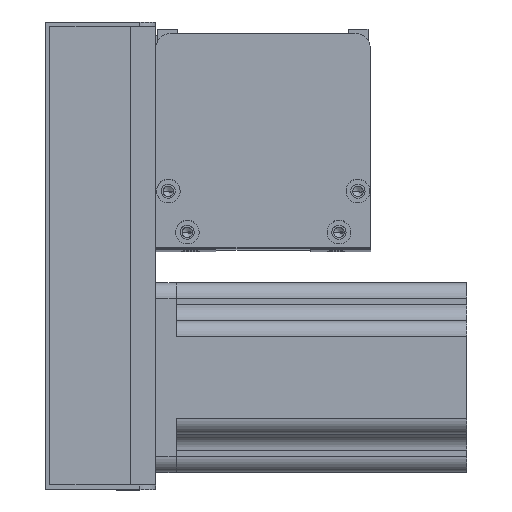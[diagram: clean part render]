
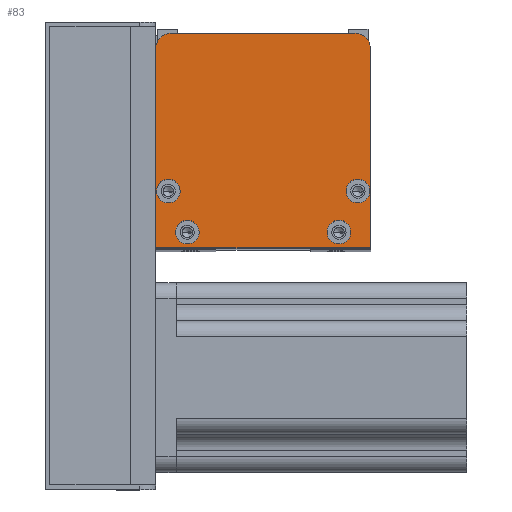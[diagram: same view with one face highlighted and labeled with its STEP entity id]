
A CAD part, top view. The second image highlights one B-rep face of the part: STEP entity #83.
In plain terms, the highlighted planar face has unit normal (0, 0, 1) as drawn and (0, 0, -1) by its records, which use the part's own axes.
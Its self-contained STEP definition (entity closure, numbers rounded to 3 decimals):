
#9 = VECTOR ( 'NONE', #20784, 1000. ) ;
#83 = ADVANCED_FACE ( 'NONE', ( #20166, #17305, #23071, #17607, #11878 ), #24080, .F. ) ;
#113 = VERTEX_POINT ( 'NONE', #14039 ) ;
#290 = VERTEX_POINT ( 'NONE', #10620 ) ;
#354 = VERTEX_POINT ( 'NONE', #10968 ) ;
#610 = CARTESIAN_POINT ( 'NONE',  ( 63., 68., 0. ) ) ;
#972 = CARTESIAN_POINT ( 'NONE',  ( 58., 5., 0. ) ) ;
#1222 = VECTOR ( 'NONE', #11255, 1000. ) ;
#1463 = VERTEX_POINT ( 'NONE', #25843 ) ;
#1499 = DIRECTION ( 'NONE',  ( 0., 0., 1. ) ) ;
#1759 = EDGE_CURVE ( 'NONE', #8579, #24037, #8531, .T. ) ;
#1870 = VERTEX_POINT ( 'NONE', #6524 ) ;
#2198 = DIRECTION ( 'NONE',  ( 0., 0., -1. ) ) ;
#2578 = AXIS2_PLACEMENT_3D ( 'NONE', #2987, #17027, #4868 ) ;
#2987 = CARTESIAN_POINT ( 'NONE',  ( 10., 5., 0. ) ) ;
#3238 = EDGE_CURVE ( 'NONE', #1463, #11484, #15216, .T. ) ;
#3271 = DIRECTION ( 'NONE',  ( -1., 0., 0. ) ) ;
#3310 = ORIENTED_EDGE ( 'NONE', *, *, #8917, .F. ) ;
#3328 = CIRCLE ( 'NONE', #11907, 3.75 ) ;
#4022 = DIRECTION ( 'NONE',  ( 0., 0., -1. ) ) ;
#4379 = CARTESIAN_POINT ( 'NONE',  ( 5., 63., 0. ) ) ;
#4486 = LINE ( 'NONE', #5091, #1222 ) ;
#4838 = EDGE_CURVE ( 'NONE', #24037, #8579, #22292, .T. ) ;
#4868 = DIRECTION ( 'NONE',  ( -1., 0., 0. ) ) ;
#4894 = DIRECTION ( 'NONE',  ( -1., 0., 0. ) ) ;
#4999 = CARTESIAN_POINT ( 'NONE',  ( 63., 63., 0. ) ) ;
#5091 = CARTESIAN_POINT ( 'NONE',  ( 68., 0., 0. ) ) ;
#5224 = CIRCLE ( 'NONE', #22264, 3.75 ) ;
#5585 = CARTESIAN_POINT ( 'NONE',  ( 61.75, 5., 0. ) ) ;
#5657 = AXIS2_PLACEMENT_3D ( 'NONE', #4379, #12598, #14490 ) ;
#5755 = VERTEX_POINT ( 'NONE', #5902 ) ;
#5902 = CARTESIAN_POINT ( 'NONE',  ( 6.25, 5., 0. ) ) ;
#5914 = EDGE_CURVE ( 'NONE', #16464, #21034, #23194, .T. ) ;
#5964 = AXIS2_PLACEMENT_3D ( 'NONE', #12381, #6515, #20865 ) ;
#5997 = VECTOR ( 'NONE', #20917, 1000. ) ;
#6315 = AXIS2_PLACEMENT_3D ( 'NONE', #11791, #1499, #23718 ) ;
#6515 = DIRECTION ( 'NONE',  ( 0., 0., -1. ) ) ;
#6524 = CARTESIAN_POINT ( 'NONE',  ( 0., 63., 0. ) ) ;
#6995 = DIRECTION ( 'NONE',  ( 0., 0., -1. ) ) ;
#7094 = DIRECTION ( 'NONE',  ( 1., 0., 0. ) ) ;
#7128 = ORIENTED_EDGE ( 'NONE', *, *, #11687, .F. ) ;
#7672 = AXIS2_PLACEMENT_3D ( 'NONE', #4999, #15280, #7094 ) ;
#7731 = EDGE_LOOP ( 'NONE', ( #26288, #3310 ) ) ;
#7888 = CARTESIAN_POINT ( 'NONE',  ( 0.25, 18., 0. ) ) ;
#8006 = ORIENTED_EDGE ( 'NONE', *, *, #14406, .F. ) ;
#8065 = CARTESIAN_POINT ( 'NONE',  ( 58., 5., 0. ) ) ;
#8080 = CARTESIAN_POINT ( 'NONE',  ( 7.75, 18., 0. ) ) ;
#8531 = CIRCLE ( 'NONE', #13285, 3.75 ) ;
#8579 = VERTEX_POINT ( 'NONE', #5585 ) ;
#8909 = EDGE_CURVE ( 'NONE', #16033, #354, #17562, .T. ) ;
#8917 = EDGE_CURVE ( 'NONE', #13594, #26296, #12781, .T. ) ;
#9876 = ORIENTED_EDGE ( 'NONE', *, *, #15460, .F. ) ;
#9889 = CIRCLE ( 'NONE', #5964, 3.75 ) ;
#10318 = CARTESIAN_POINT ( 'NONE',  ( 68., 0., 0. ) ) ;
#10620 = CARTESIAN_POINT ( 'NONE',  ( 13.75, 5., 0. ) ) ;
#10968 = CARTESIAN_POINT ( 'NONE',  ( 5., 68., 0. ) ) ;
#10970 = CARTESIAN_POINT ( 'NONE',  ( 10., 5., 0. ) ) ;
#11009 = ORIENTED_EDGE ( 'NONE', *, *, #8909, .F. ) ;
#11255 = DIRECTION ( 'NONE',  ( 1., 0., 0. ) ) ;
#11407 = EDGE_LOOP ( 'NONE', ( #15994, #26570 ) ) ;
#11484 = VERTEX_POINT ( 'NONE', #24961 ) ;
#11687 = EDGE_CURVE ( 'NONE', #5755, #290, #5224, .T. ) ;
#11791 = CARTESIAN_POINT ( 'NONE',  ( 0., 0., 0. ) ) ;
#11878 = FACE_OUTER_BOUND ( 'NONE', #15914, .T. ) ;
#11907 = AXIS2_PLACEMENT_3D ( 'NONE', #26532, #4022, #24547 ) ;
#12381 = CARTESIAN_POINT ( 'NONE',  ( 64., 18., 0. ) ) ;
#12511 = VECTOR ( 'NONE', #13541, 1000. ) ;
#12598 = DIRECTION ( 'NONE',  ( 0., 0., -1. ) ) ;
#12781 = CIRCLE ( 'NONE', #22992, 3.75 ) ;
#13285 = AXIS2_PLACEMENT_3D ( 'NONE', #8065, #2198, #16667 ) ;
#13347 = EDGE_CURVE ( 'NONE', #16033, #21034, #18320, .T. ) ;
#13361 = CARTESIAN_POINT ( 'NONE',  ( 0., 0., 0. ) ) ;
#13541 = DIRECTION ( 'NONE',  ( 0., -1., 0. ) ) ;
#13594 = VERTEX_POINT ( 'NONE', #8080 ) ;
#13924 = CARTESIAN_POINT ( 'NONE',  ( 64., 18., 0. ) ) ;
#14039 = CARTESIAN_POINT ( 'NONE',  ( 0., 0., 0. ) ) ;
#14381 = ORIENTED_EDGE ( 'NONE', *, *, #24066, .F. ) ;
#14406 = EDGE_CURVE ( 'NONE', #113, #16464, #4486, .T. ) ;
#14490 = DIRECTION ( 'NONE',  ( 1., 0., 0. ) ) ;
#15216 = CIRCLE ( 'NONE', #24467, 3.75 ) ;
#15280 = DIRECTION ( 'NONE',  ( 0., 0., -1. ) ) ;
#15460 = EDGE_CURVE ( 'NONE', #1870, #113, #17957, .T. ) ;
#15528 = ORIENTED_EDGE ( 'NONE', *, *, #13347, .T. ) ;
#15866 = DIRECTION ( 'NONE',  ( 0., 0., -1. ) ) ;
#15914 = EDGE_LOOP ( 'NONE', ( #9876, #25643, #11009, #15528, #22175, #8006 ) ) ;
#15994 = ORIENTED_EDGE ( 'NONE', *, *, #4838, .F. ) ;
#16003 = CIRCLE ( 'NONE', #5657, 5. ) ;
#16033 = VERTEX_POINT ( 'NONE', #610 ) ;
#16464 = VERTEX_POINT ( 'NONE', #18388 ) ;
#16667 = DIRECTION ( 'NONE',  ( -1., 0., 0. ) ) ;
#17027 = DIRECTION ( 'NONE',  ( 0., 0., -1. ) ) ;
#17305 = FACE_BOUND ( 'NONE', #7731, .T. ) ;
#17562 = LINE ( 'NONE', #18857, #5997 ) ;
#17607 = FACE_BOUND ( 'NONE', #11407, .T. ) ;
#17957 = LINE ( 'NONE', #13361, #12511 ) ;
#18080 = EDGE_CURVE ( 'NONE', #26296, #13594, #3328, .T. ) ;
#18320 = CIRCLE ( 'NONE', #7672, 5. ) ;
#18388 = CARTESIAN_POINT ( 'NONE',  ( 68., 0., 0. ) ) ;
#18853 = ORIENTED_EDGE ( 'NONE', *, *, #24816, .F. ) ;
#18857 = CARTESIAN_POINT ( 'NONE',  ( 68., 68., 0. ) ) ;
#19400 = DIRECTION ( 'NONE',  ( -1., 0., 0. ) ) ;
#20166 = FACE_BOUND ( 'NONE', #26427, .T. ) ;
#20784 = DIRECTION ( 'NONE',  ( 0., 1., 0. ) ) ;
#20865 = DIRECTION ( 'NONE',  ( -1., 0., 0. ) ) ;
#20917 = DIRECTION ( 'NONE',  ( -1., 0., 0. ) ) ;
#21034 = VERTEX_POINT ( 'NONE', #23992 ) ;
#21963 = CIRCLE ( 'NONE', #2578, 3.75 ) ;
#22042 = EDGE_CURVE ( 'NONE', #1870, #354, #16003, .T. ) ;
#22175 = ORIENTED_EDGE ( 'NONE', *, *, #5914, .F. ) ;
#22241 = ORIENTED_EDGE ( 'NONE', *, *, #3238, .F. ) ;
#22264 = AXIS2_PLACEMENT_3D ( 'NONE', #10970, #25305, #4894 ) ;
#22292 = CIRCLE ( 'NONE', #24505, 3.75 ) ;
#22992 = AXIS2_PLACEMENT_3D ( 'NONE', #25672, #6995, #25317 ) ;
#23071 = FACE_BOUND ( 'NONE', #24438, .T. ) ;
#23194 = LINE ( 'NONE', #10318, #9 ) ;
#23484 = CARTESIAN_POINT ( 'NONE',  ( 54.25, 5., 0. ) ) ;
#23625 = DIRECTION ( 'NONE',  ( 0., 0., -1. ) ) ;
#23718 = DIRECTION ( 'NONE',  ( 1., 0., 0. ) ) ;
#23992 = CARTESIAN_POINT ( 'NONE',  ( 68., 63., 0. ) ) ;
#24037 = VERTEX_POINT ( 'NONE', #23484 ) ;
#24066 = EDGE_CURVE ( 'NONE', #290, #5755, #21963, .T. ) ;
#24080 = PLANE ( 'NONE',  #6315 ) ;
#24438 = EDGE_LOOP ( 'NONE', ( #7128, #14381 ) ) ;
#24467 = AXIS2_PLACEMENT_3D ( 'NONE', #13924, #15866, #3271 ) ;
#24505 = AXIS2_PLACEMENT_3D ( 'NONE', #972, #23625, #19400 ) ;
#24547 = DIRECTION ( 'NONE',  ( -1., 0., 0. ) ) ;
#24816 = EDGE_CURVE ( 'NONE', #11484, #1463, #9889, .T. ) ;
#24961 = CARTESIAN_POINT ( 'NONE',  ( 67.75, 18., 0. ) ) ;
#25305 = DIRECTION ( 'NONE',  ( 0., 0., -1. ) ) ;
#25317 = DIRECTION ( 'NONE',  ( -1., 0., 0. ) ) ;
#25643 = ORIENTED_EDGE ( 'NONE', *, *, #22042, .T. ) ;
#25672 = CARTESIAN_POINT ( 'NONE',  ( 4., 18., 0. ) ) ;
#25843 = CARTESIAN_POINT ( 'NONE',  ( 60.25, 18., 0. ) ) ;
#26288 = ORIENTED_EDGE ( 'NONE', *, *, #18080, .F. ) ;
#26296 = VERTEX_POINT ( 'NONE', #7888 ) ;
#26427 = EDGE_LOOP ( 'NONE', ( #22241, #18853 ) ) ;
#26532 = CARTESIAN_POINT ( 'NONE',  ( 4., 18., 0. ) ) ;
#26570 = ORIENTED_EDGE ( 'NONE', *, *, #1759, .F. ) ;
